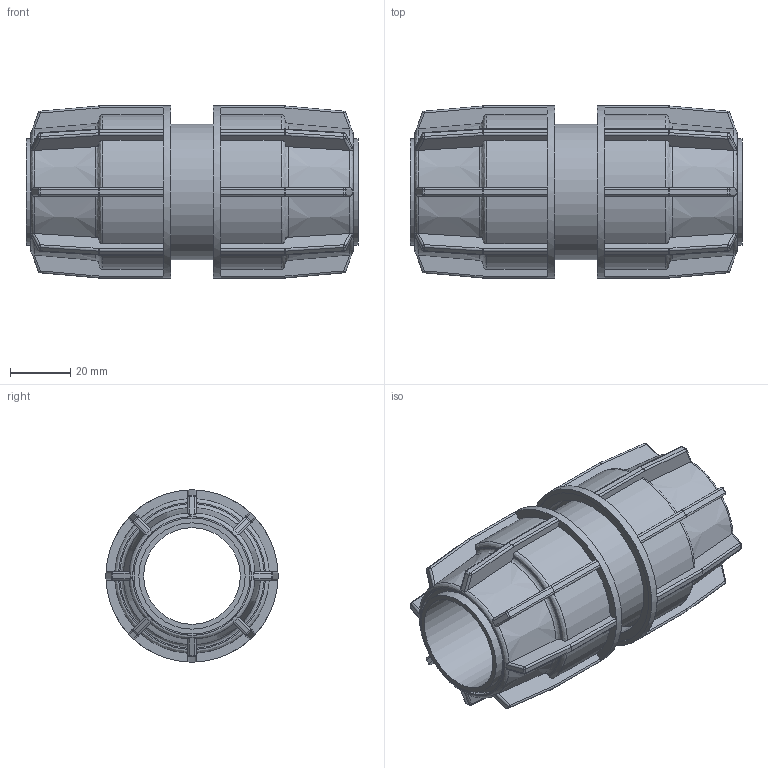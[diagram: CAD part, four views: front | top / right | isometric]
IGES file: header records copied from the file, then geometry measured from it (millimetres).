
Global section: file name: 040107032.ipt; native system: Autodesk Inventor 2015; preprocessor: unknown; author: KIM; date: 20180409.130621; units: millimetre
Bounding box: 110 x 57 x 57 mm (x, y, z)
Volume: 108794.7 mm3; surface area: 41568.6 mm2
Topology: 1 solids, 1 shells, 522 faces, 1241 edges, 716 vertices
Faces by surface type: plane 236, cylinder 149, sphere 64, revolution 41, bspline 16, cone 16
Full cylindrical faces by diameter (mm): 35.2 x2, 44.8 x1, 57 x2
